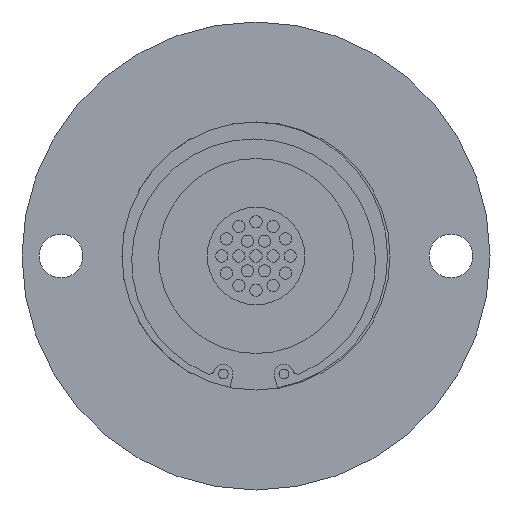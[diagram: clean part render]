
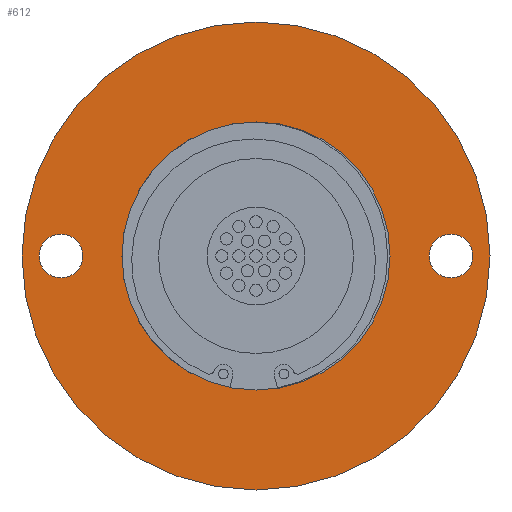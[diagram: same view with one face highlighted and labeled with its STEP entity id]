
A CAD part, front view. The second image highlights one B-rep face of the part: STEP entity #612.
In plain terms, the highlighted planar face has unit normal (0, -1, 0).
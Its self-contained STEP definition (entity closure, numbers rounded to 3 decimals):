
#52 = AXIS2_PLACEMENT_3D ( 'NONE', #414, #2428, #1097 ) ;
#93 = DIRECTION ( 'NONE',  ( 0., 0., 1. ) ) ;
#128 = DIRECTION ( 'NONE',  ( 0., 1., 0. ) ) ;
#185 = CIRCLE ( 'NONE', #1570, 4.5 ) ;
#218 = EDGE_CURVE ( 'NONE', #2500, #1786, #699, .T. ) ;
#240 = CARTESIAN_POINT ( 'NONE',  ( 0., 0., 0. ) ) ;
#255 = CIRCLE ( 'NONE', #2242, 27.5 ) ;
#271 = VERTEX_POINT ( 'NONE', #2372 ) ;
#292 = FACE_OUTER_BOUND ( 'NONE', #2311, .T. ) ;
#351 = CARTESIAN_POINT ( 'NONE',  ( -40., 0., 4.5 ) ) ;
#370 = FACE_BOUND ( 'NONE', #1351, .T. ) ;
#414 = CARTESIAN_POINT ( 'NONE',  ( -27.5, 0., 0. ) ) ;
#424 = ORIENTED_EDGE ( 'NONE', *, *, #1163, .T. ) ;
#466 = DIRECTION ( 'NONE',  ( 0., 0., 1. ) ) ;
#532 = CARTESIAN_POINT ( 'NONE',  ( 0., 0., 0. ) ) ;
#557 = CIRCLE ( 'NONE', #1013, 4.5 ) ;
#558 = CARTESIAN_POINT ( 'NONE',  ( -40., 0., 0. ) ) ;
#612 = ADVANCED_FACE ( 'NONE', ( #908, #370, #2099, #292 ), #1997, .T. ) ;
#652 = ORIENTED_EDGE ( 'NONE', *, *, #1370, .T. ) ;
#664 = CIRCLE ( 'NONE', #1108, 4.5 ) ;
#699 = CIRCLE ( 'NONE', #2334, 48. ) ;
#773 = DIRECTION ( 'NONE',  ( 0., 0., 1. ) ) ;
#797 = ORIENTED_EDGE ( 'NONE', *, *, #2254, .T. ) ;
#801 = DIRECTION ( 'NONE',  ( 0., 0., -1. ) ) ;
#843 = ORIENTED_EDGE ( 'NONE', *, *, #2813, .T. ) ;
#900 = VERTEX_POINT ( 'NONE', #2438 ) ;
#908 = FACE_BOUND ( 'NONE', #2156, .T. ) ;
#983 = CARTESIAN_POINT ( 'NONE',  ( 40., 0., 0. ) ) ;
#1013 = AXIS2_PLACEMENT_3D ( 'NONE', #1272, #2837, #1504 ) ;
#1063 = VERTEX_POINT ( 'NONE', #2714 ) ;
#1097 = DIRECTION ( 'NONE',  ( 0., 0., -1. ) ) ;
#1101 = ORIENTED_EDGE ( 'NONE', *, *, #2559, .F. ) ;
#1108 = AXIS2_PLACEMENT_3D ( 'NONE', #983, #2542, #1203 ) ;
#1112 = CIRCLE ( 'NONE', #2151, 4.5 ) ;
#1115 = DIRECTION ( 'NONE',  ( 0., 1., 0. ) ) ;
#1116 = VERTEX_POINT ( 'NONE', #351 ) ;
#1119 = CARTESIAN_POINT ( 'NONE',  ( 0., 0., -48. ) ) ;
#1158 = AXIS2_PLACEMENT_3D ( 'NONE', #532, #2120, #773 ) ;
#1163 = EDGE_CURVE ( 'NONE', #1063, #1372, #557, .T. ) ;
#1196 = ORIENTED_EDGE ( 'NONE', *, *, #2069, .T. ) ;
#1203 = DIRECTION ( 'NONE',  ( 0., 0., -1. ) ) ;
#1206 = EDGE_LOOP ( 'NONE', ( #1543, #797 ) ) ;
#1272 = CARTESIAN_POINT ( 'NONE',  ( 40., 0., 0. ) ) ;
#1351 = EDGE_LOOP ( 'NONE', ( #843, #1196 ) ) ;
#1370 = EDGE_CURVE ( 'NONE', #1372, #1063, #664, .T. ) ;
#1372 = VERTEX_POINT ( 'NONE', #1840 ) ;
#1448 = DIRECTION ( 'NONE',  ( 0., 1., 0. ) ) ;
#1480 = CARTESIAN_POINT ( 'NONE',  ( 0., 0., 0. ) ) ;
#1504 = DIRECTION ( 'NONE',  ( 0., 0., -1. ) ) ;
#1543 = ORIENTED_EDGE ( 'NONE', *, *, #1825, .T. ) ;
#1570 = AXIS2_PLACEMENT_3D ( 'NONE', #558, #2150, #801 ) ;
#1701 = DIRECTION ( 'NONE',  ( 0., 0., 1. ) ) ;
#1786 = VERTEX_POINT ( 'NONE', #1119 ) ;
#1820 = DIRECTION ( 'NONE',  ( 0., 1., 0. ) ) ;
#1825 = EDGE_CURVE ( 'NONE', #1879, #900, #2214, .T. ) ;
#1840 = CARTESIAN_POINT ( 'NONE',  ( 40., 0., -4.5 ) ) ;
#1879 = VERTEX_POINT ( 'NONE', #2718 ) ;
#1997 = PLANE ( 'NONE',  #52 ) ;
#2069 = EDGE_CURVE ( 'NONE', #271, #1116, #1112, .T. ) ;
#2099 = FACE_BOUND ( 'NONE', #1206, .T. ) ;
#2120 = DIRECTION ( 'NONE',  ( 0., 1., 0. ) ) ;
#2150 = DIRECTION ( 'NONE',  ( 0., 1., 0. ) ) ;
#2151 = AXIS2_PLACEMENT_3D ( 'NONE', #2451, #1115, #2682 ) ;
#2156 = EDGE_LOOP ( 'NONE', ( #424, #652 ) ) ;
#2211 = AXIS2_PLACEMENT_3D ( 'NONE', #240, #1820, #466 ) ;
#2214 = CIRCLE ( 'NONE', #2211, 27.5 ) ;
#2242 = AXIS2_PLACEMENT_3D ( 'NONE', #2793, #1448, #93 ) ;
#2254 = EDGE_CURVE ( 'NONE', #900, #1879, #255, .T. ) ;
#2264 = ORIENTED_EDGE ( 'NONE', *, *, #218, .F. ) ;
#2307 = CARTESIAN_POINT ( 'NONE',  ( 0., 0., 48. ) ) ;
#2311 = EDGE_LOOP ( 'NONE', ( #2264, #1101 ) ) ;
#2334 = AXIS2_PLACEMENT_3D ( 'NONE', #1480, #128, #1701 ) ;
#2372 = CARTESIAN_POINT ( 'NONE',  ( -40., 0., -4.5 ) ) ;
#2428 = DIRECTION ( 'NONE',  ( 0., -1., 0. ) ) ;
#2438 = CARTESIAN_POINT ( 'NONE',  ( 0., 0., -27.5 ) ) ;
#2451 = CARTESIAN_POINT ( 'NONE',  ( -40., 0., 0. ) ) ;
#2500 = VERTEX_POINT ( 'NONE', #2307 ) ;
#2542 = DIRECTION ( 'NONE',  ( 0., 1., 0. ) ) ;
#2559 = EDGE_CURVE ( 'NONE', #1786, #2500, #2784, .T. ) ;
#2682 = DIRECTION ( 'NONE',  ( 0., 0., -1. ) ) ;
#2714 = CARTESIAN_POINT ( 'NONE',  ( 40., 0., 4.5 ) ) ;
#2718 = CARTESIAN_POINT ( 'NONE',  ( 0., 0., 27.5 ) ) ;
#2784 = CIRCLE ( 'NONE', #1158, 48. ) ;
#2793 = CARTESIAN_POINT ( 'NONE',  ( 0., 0., 0. ) ) ;
#2813 = EDGE_CURVE ( 'NONE', #1116, #271, #185, .T. ) ;
#2837 = DIRECTION ( 'NONE',  ( 0., 1., 0. ) ) ;
